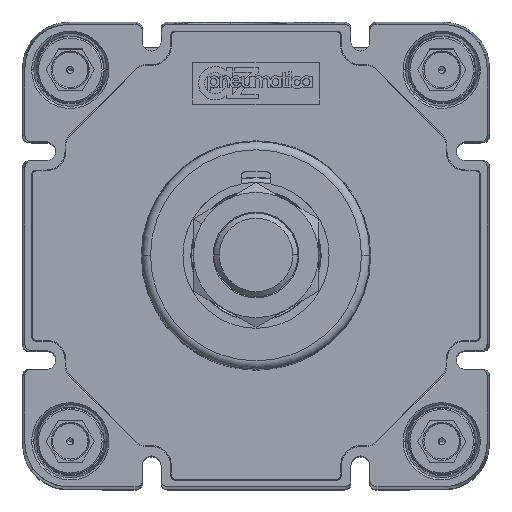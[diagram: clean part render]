
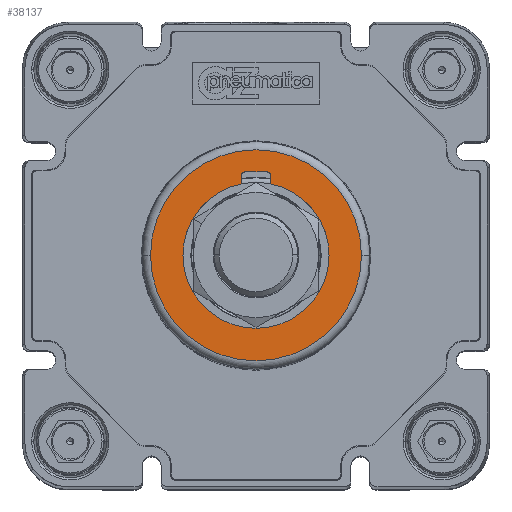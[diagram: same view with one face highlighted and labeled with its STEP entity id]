
A CAD part, top view. The second image highlights one B-rep face of the part: STEP entity #38137.
In plain terms, the highlighted planar face has unit normal (0, 0, 1) as drawn and (0, 0, -1) by its records, which use the part's own axes.
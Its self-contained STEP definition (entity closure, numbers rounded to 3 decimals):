
#413 = CIRCLE ( 'NONE', #23902, 25.282 ) ;
#1367 = DIRECTION ( 'NONE',  ( 0., 0., 1. ) ) ;
#1777 = DIRECTION ( 'NONE',  ( 0., 0., -1. ) ) ;
#2985 = EDGE_CURVE ( 'NONE', #5681, #42703, #19672, .T. ) ;
#3139 = CARTESIAN_POINT ( 'NONE',  ( -2.5, 20., -72. ) ) ;
#3625 = DIRECTION ( 'NONE',  ( -1., 0., 0. ) ) ;
#5681 = VERTEX_POINT ( 'NONE', #44525 ) ;
#5871 = CARTESIAN_POINT ( 'NONE',  ( 0., 0., -72. ) ) ;
#6443 = EDGE_CURVE ( 'NONE', #42703, #17854, #19613, .T. ) ;
#7757 = ORIENTED_EDGE ( 'NONE', *, *, #48603, .F. ) ;
#8334 = LINE ( 'NONE', #30895, #32240 ) ;
#8543 = ORIENTED_EDGE ( 'NONE', *, *, #54779, .T. ) ;
#8959 = CIRCLE ( 'NONE', #22159, 25.282 ) ;
#11070 = DIRECTION ( 'NONE',  ( 1., 0., 0. ) ) ;
#14083 = VECTOR ( 'NONE', #15907, 1000. ) ;
#14237 = EDGE_CURVE ( 'NONE', #5681, #14578, #8334, .T. ) ;
#14578 = VERTEX_POINT ( 'NONE', #47146 ) ;
#15721 = ORIENTED_EDGE ( 'NONE', *, *, #6443, .T. ) ;
#15890 = ORIENTED_EDGE ( 'NONE', *, *, #20787, .F. ) ;
#15907 = DIRECTION ( 'NONE',  ( 1., 0., 0. ) ) ;
#17060 = CARTESIAN_POINT ( 'NONE',  ( 3.5, 19., -72. ) ) ;
#17854 = VERTEX_POINT ( 'NONE', #48340 ) ;
#18635 = EDGE_CURVE ( 'NONE', #17854, #45613, #29225, .T. ) ;
#19613 = CIRCLE ( 'NONE', #25301, 17.5 ) ;
#19672 = CIRCLE ( 'NONE', #46752, 17.5 ) ;
#19989 = CIRCLE ( 'NONE', #32928, 1. ) ;
#20045 = ORIENTED_EDGE ( 'NONE', *, *, #48774, .F. ) ;
#20107 = PLANE ( 'NONE',  #21401 ) ;
#20787 = EDGE_CURVE ( 'NONE', #27341, #40205, #40655, .T. ) ;
#21297 = EDGE_CURVE ( 'NONE', #48009, #51278, #413, .T. ) ;
#21401 = AXIS2_PLACEMENT_3D ( 'NONE', #45862, #37495, #41388 ) ;
#22159 = AXIS2_PLACEMENT_3D ( 'NONE', #22833, #48047, #52095 ) ;
#22833 = CARTESIAN_POINT ( 'NONE',  ( 0., 0., -72. ) ) ;
#23074 = FACE_BOUND ( 'NONE', #36500, .T. ) ;
#23841 = CARTESIAN_POINT ( 'NONE',  ( 0., 0., -72. ) ) ;
#23902 = AXIS2_PLACEMENT_3D ( 'NONE', #23841, #1777, #31437 ) ;
#24095 = CARTESIAN_POINT ( 'NONE',  ( 2.5, 20., -72. ) ) ;
#24218 = DIRECTION ( 'NONE',  ( 0., 0., -1. ) ) ;
#25301 = AXIS2_PLACEMENT_3D ( 'NONE', #26740, #1367, #43236 ) ;
#26740 = CARTESIAN_POINT ( 'NONE',  ( 0., 0., -72. ) ) ;
#26848 = EDGE_CURVE ( 'NONE', #40205, #28260, #19989, .T. ) ;
#27341 = VERTEX_POINT ( 'NONE', #3139 ) ;
#28260 = VERTEX_POINT ( 'NONE', #17060 ) ;
#28538 = CARTESIAN_POINT ( 'NONE',  ( -17.5, 0., -72. ) ) ;
#29150 = CIRCLE ( 'NONE', #47705, 1. ) ;
#29225 = CIRCLE ( 'NONE', #38261, 17.5 ) ;
#29509 = DIRECTION ( 'NONE',  ( 1., 0., 0. ) ) ;
#29544 = EDGE_LOOP ( 'NONE', ( #51007, #8543 ) ) ;
#30895 = CARTESIAN_POINT ( 'NONE',  ( -3.5, 19., -72. ) ) ;
#31437 = DIRECTION ( 'NONE',  ( -1., 0., 0. ) ) ;
#32240 = VECTOR ( 'NONE', #52384, 1000. ) ;
#32928 = AXIS2_PLACEMENT_3D ( 'NONE', #54229, #24218, #3625 ) ;
#35725 = LINE ( 'NONE', #54661, #44357 ) ;
#36500 = EDGE_LOOP ( 'NONE', ( #43003, #52521, #15721, #43228, #20045, #44402, #15890, #7757 ) ) ;
#37141 = CARTESIAN_POINT ( 'NONE',  ( 3.5, 17.146, -72. ) ) ;
#37495 = DIRECTION ( 'NONE',  ( 0., 0., -1. ) ) ;
#37776 = DIRECTION ( 'NONE',  ( 0., -1., 0. ) ) ;
#38137 = ADVANCED_FACE ( 'NONE', ( #46942, #23074 ), #20107, .T. ) ;
#38261 = AXIS2_PLACEMENT_3D ( 'NONE', #50115, #50832, #29509 ) ;
#39190 = CARTESIAN_POINT ( 'NONE',  ( -25.282, 0., -72. ) ) ;
#40205 = VERTEX_POINT ( 'NONE', #40469 ) ;
#40469 = CARTESIAN_POINT ( 'NONE',  ( 2.5, 20., -72. ) ) ;
#40655 = LINE ( 'NONE', #24095, #14083 ) ;
#41388 = DIRECTION ( 'NONE',  ( -1., 0., 0. ) ) ;
#42703 = VERTEX_POINT ( 'NONE', #28538 ) ;
#43003 = ORIENTED_EDGE ( 'NONE', *, *, #14237, .F. ) ;
#43228 = ORIENTED_EDGE ( 'NONE', *, *, #18635, .T. ) ;
#43236 = DIRECTION ( 'NONE',  ( 1., 0., 0. ) ) ;
#44278 = DIRECTION ( 'NONE',  ( 0., 0., 1. ) ) ;
#44357 = VECTOR ( 'NONE', #37776, 1000. ) ;
#44402 = ORIENTED_EDGE ( 'NONE', *, *, #26848, .F. ) ;
#44525 = CARTESIAN_POINT ( 'NONE',  ( -3.5, 17.146, -72. ) ) ;
#45613 = VERTEX_POINT ( 'NONE', #37141 ) ;
#45862 = CARTESIAN_POINT ( 'NONE',  ( 0., 0., -72. ) ) ;
#46009 = CARTESIAN_POINT ( 'NONE',  ( 25.282, 0., -72. ) ) ;
#46752 = AXIS2_PLACEMENT_3D ( 'NONE', #5871, #44278, #48004 ) ;
#46942 = FACE_OUTER_BOUND ( 'NONE', #29544, .T. ) ;
#47146 = CARTESIAN_POINT ( 'NONE',  ( -3.5, 19., -72. ) ) ;
#47705 = AXIS2_PLACEMENT_3D ( 'NONE', #53360, #53547, #11070 ) ;
#48004 = DIRECTION ( 'NONE',  ( 1., 0., 0. ) ) ;
#48009 = VERTEX_POINT ( 'NONE', #39190 ) ;
#48047 = DIRECTION ( 'NONE',  ( 0., 0., -1. ) ) ;
#48340 = CARTESIAN_POINT ( 'NONE',  ( 17.5, 0., -72. ) ) ;
#48603 = EDGE_CURVE ( 'NONE', #14578, #27341, #29150, .T. ) ;
#48774 = EDGE_CURVE ( 'NONE', #28260, #45613, #35725, .T. ) ;
#50115 = CARTESIAN_POINT ( 'NONE',  ( 0., 0., -72. ) ) ;
#50832 = DIRECTION ( 'NONE',  ( 0., 0., 1. ) ) ;
#51007 = ORIENTED_EDGE ( 'NONE', *, *, #21297, .T. ) ;
#51278 = VERTEX_POINT ( 'NONE', #46009 ) ;
#52095 = DIRECTION ( 'NONE',  ( -1., 0., 0. ) ) ;
#52384 = DIRECTION ( 'NONE',  ( 0., 1., 0. ) ) ;
#52521 = ORIENTED_EDGE ( 'NONE', *, *, #2985, .T. ) ;
#53360 = CARTESIAN_POINT ( 'NONE',  ( -2.5, 19., -72. ) ) ;
#53547 = DIRECTION ( 'NONE',  ( 0., 0., -1. ) ) ;
#54229 = CARTESIAN_POINT ( 'NONE',  ( 2.5, 19., -72. ) ) ;
#54661 = CARTESIAN_POINT ( 'NONE',  ( 3.5, 19., -72. ) ) ;
#54779 = EDGE_CURVE ( 'NONE', #51278, #48009, #8959, .T. ) ;
